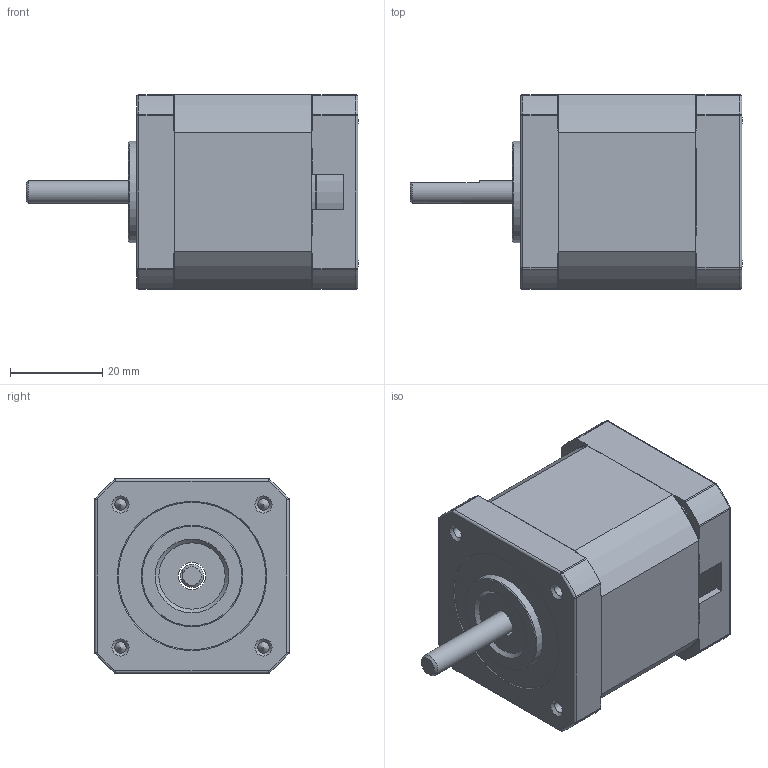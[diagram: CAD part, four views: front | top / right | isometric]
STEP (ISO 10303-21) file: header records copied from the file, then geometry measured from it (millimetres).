
FILE_DESCRIPTION (( 'STEP AP203' ), '1' );
FILE_NAME ('YK42HB47-02A.STEP', '2018-09-26T06:36:30', ( '' ), ( '' ), 'SwSTEP 2.0', 'SolidWorks 2014', '' );
FILE_SCHEMA (( 'CONFIG_CONTROL_DESIGN' ));
Length unit declared in the file: millimetre
Products named in the file (14): YK42HBXX-02粣郋; 蹟隊; YK42HBXX-02A前盖; YK42HBXX-02A綴裔; YK42HB47-02A; YK42HBXX-02A隅赽
Assembly tree (8 placements, depth 2):
  蹟隊
  YK42HBXX-02粣郋
  蹟隊
  蹟隊
  YK42HBXX-02A綴裔
Bounding box: 72 x 42.2 x 42.2 mm (x, y, z)
Volume: 53128.4 mm3; surface area: 27051.2 mm2
Topology: 4 solids, 12 shells, 468 faces, 1260 edges, 758 vertices
Faces by surface type: cylinder 225, plane 124, cone 73, sphere 32, torus 10, bspline 4
Full cylindrical faces by diameter (mm): 2.5 x4, 3 x108, 3.3 x8, 5 x1, 6 x1, 6.5 x1, 13 x2, 16 x2, 22 x1, 25.91 x3, 26.3 x1, 27 x1
Entity records: 9383 total; most frequent: CARTESIAN_POINT 2015, DIRECTION 1386, ORIENTED_EDGE 1132, EDGE_CURVE 570, AXIS2_PLACEMENT_3D 558, VERTEX_POINT 367, EDGE_LOOP 347, FACE_OUTER_BOUND 293
